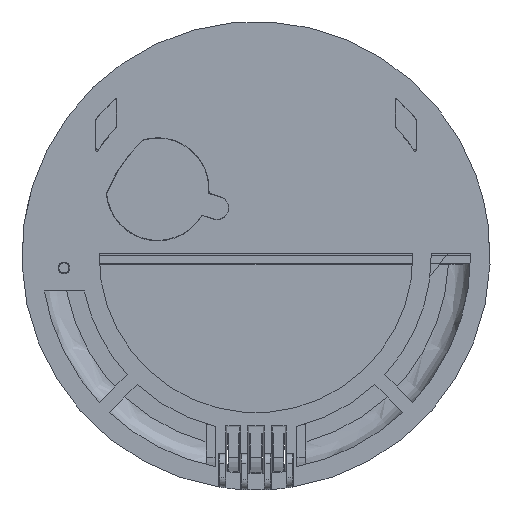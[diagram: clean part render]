
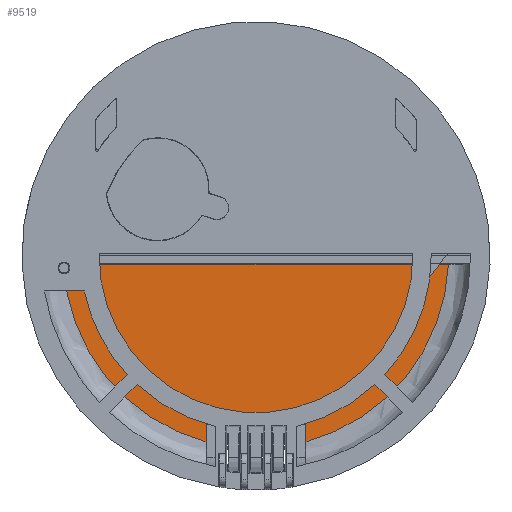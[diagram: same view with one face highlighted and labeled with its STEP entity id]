
A CAD part, front view. The second image highlights one B-rep face of the part: STEP entity #9519.
In plain terms, the highlighted planar face has unit normal (0, -1, 0).
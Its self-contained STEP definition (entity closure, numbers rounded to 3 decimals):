
#193 = ORIENTED_EDGE ( 'NONE', *, *, #7725, .F. ) ;
#277 = AXIS2_PLACEMENT_3D ( 'NONE', #10678, #1798, #2843 ) ;
#279 = VERTEX_POINT ( 'NONE', #8033 ) ;
#299 = CARTESIAN_POINT ( 'NONE',  ( -10.5, 20.1, -35.825 ) ) ;
#335 = VERTEX_POINT ( 'NONE', #1986 ) ;
#374 = VECTOR ( 'NONE', #523, 1000. ) ;
#523 = DIRECTION ( 'NONE',  ( -1., 0., 0. ) ) ;
#569 = CARTESIAN_POINT ( 'NONE',  ( 0., 20.1, 0. ) ) ;
#578 = VERTEX_POINT ( 'NONE', #1883 ) ;
#870 = VERTEX_POINT ( 'NONE', #3231 ) ;
#905 = CARTESIAN_POINT ( 'NONE',  ( 10.675, 20.1, -36. ) ) ;
#1573 = PLANE ( 'NONE',  #10925 ) ;
#1798 = DIRECTION ( 'NONE',  ( 0., -1., 0. ) ) ;
#1817 = EDGE_CURVE ( 'NONE', #6453, #578, #4170, .T. ) ;
#1832 = CARTESIAN_POINT ( 'NONE',  ( -10.675, 20.1, -39.715 ) ) ;
#1883 = CARTESIAN_POINT ( 'NONE',  ( -41.087, 20.1, -1.775 ) ) ;
#1986 = CARTESIAN_POINT ( 'NONE',  ( -10.675, 20.1, -35.825 ) ) ;
#2843 = DIRECTION ( 'NONE',  ( 0., 0., -1. ) ) ;
#2885 = LINE ( 'NONE', #905, #9685 ) ;
#2905 = EDGE_CURVE ( 'NONE', #870, #279, #2885, .T. ) ;
#3028 = ORIENTED_EDGE ( 'NONE', *, *, #2905, .F. ) ;
#3227 = FACE_OUTER_BOUND ( 'NONE', #10782, .T. ) ;
#3231 = CARTESIAN_POINT ( 'NONE',  ( 10.675, 20.1, -39.715 ) ) ;
#3740 = EDGE_CURVE ( 'NONE', #870, #6453, #6915, .T. ) ;
#3802 = LINE ( 'NONE', #7101, #5899 ) ;
#4170 = LINE ( 'NONE', #6748, #374 ) ;
#4303 = DIRECTION ( 'NONE',  ( 0., 0., 1. ) ) ;
#4374 = DIRECTION ( 'NONE',  ( 0., 1., 0. ) ) ;
#5027 = ORIENTED_EDGE ( 'NONE', *, *, #9200, .F. ) ;
#5827 = ORIENTED_EDGE ( 'NONE', *, *, #3740, .T. ) ;
#5899 = VECTOR ( 'NONE', #8094, 1000. ) ;
#5943 = DIRECTION ( 'NONE',  ( 0., -1., 0. ) ) ;
#6033 = CIRCLE ( 'NONE', #277, 41.125 ) ;
#6071 = VERTEX_POINT ( 'NONE', #1832 ) ;
#6453 = VERTEX_POINT ( 'NONE', #9904 ) ;
#6748 = CARTESIAN_POINT ( 'NONE',  ( 0., 20.1, -1.775 ) ) ;
#6915 = CIRCLE ( 'NONE', #11113, 41.125 ) ;
#7101 = CARTESIAN_POINT ( 'NONE',  ( -10.675, 20.1, -45.932 ) ) ;
#7538 = ORIENTED_EDGE ( 'NONE', *, *, #1817, .T. ) ;
#7725 = EDGE_CURVE ( 'NONE', #335, #6071, #3802, .T. ) ;
#8033 = CARTESIAN_POINT ( 'NONE',  ( 10.675, 20.1, -35.825 ) ) ;
#8094 = DIRECTION ( 'NONE',  ( 0., 0., -1. ) ) ;
#8126 = DIRECTION ( 'NONE',  ( 0., 0., 1. ) ) ;
#8794 = VECTOR ( 'NONE', #9149, 1000. ) ;
#9149 = DIRECTION ( 'NONE',  ( -1., 0., 0. ) ) ;
#9200 = EDGE_CURVE ( 'NONE', #279, #335, #11133, .T. ) ;
#9447 = ORIENTED_EDGE ( 'NONE', *, *, #10452, .T. ) ;
#9519 = ADVANCED_FACE ( 'NONE', ( #3227 ), #1573, .F. ) ;
#9685 = VECTOR ( 'NONE', #8126, 1000. ) ;
#9904 = CARTESIAN_POINT ( 'NONE',  ( 41.087, 20.1, -1.775 ) ) ;
#10452 = EDGE_CURVE ( 'NONE', #578, #6071, #6033, .T. ) ;
#10678 = CARTESIAN_POINT ( 'NONE',  ( 0., 20.1, 0. ) ) ;
#10782 = EDGE_LOOP ( 'NONE', ( #5827, #7538, #9447, #193, #5027, #3028 ) ) ;
#10925 = AXIS2_PLACEMENT_3D ( 'NONE', #11395, #4374, #4303 ) ;
#11113 = AXIS2_PLACEMENT_3D ( 'NONE', #569, #5943, #11240 ) ;
#11133 = LINE ( 'NONE', #299, #8794 ) ;
#11240 = DIRECTION ( 'NONE',  ( 0., 0., -1. ) ) ;
#11395 = CARTESIAN_POINT ( 'NONE',  ( 0., 20.1, 0. ) ) ;
